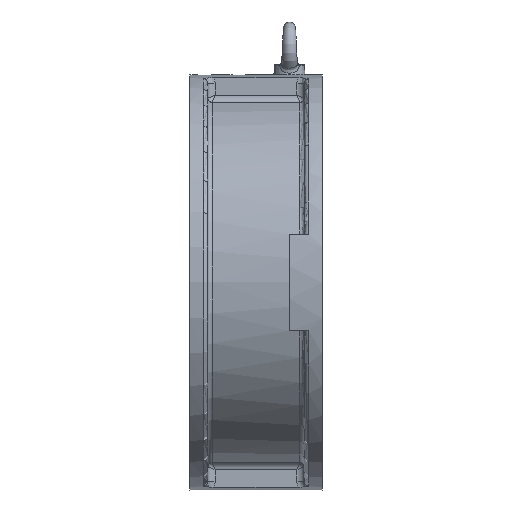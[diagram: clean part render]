
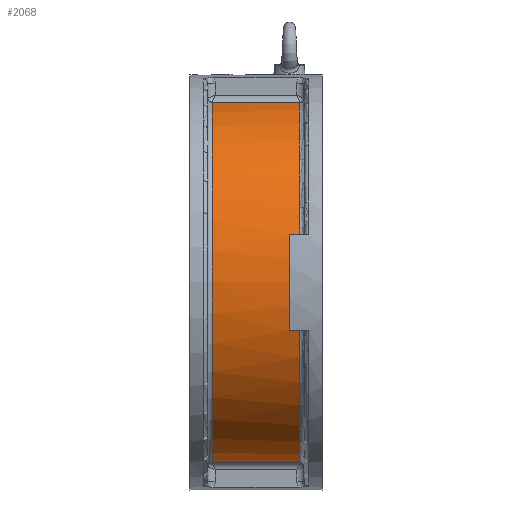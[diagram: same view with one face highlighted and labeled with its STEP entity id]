
A CAD part, left-side view. The second image highlights one B-rep face of the part: STEP entity #2068.
In plain terms, the highlighted cylindrical face has radius 124 mm (diameter 248 mm), a partial arc.
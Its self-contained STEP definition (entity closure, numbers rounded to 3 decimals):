
#37 = DIRECTION ( 'NONE',  ( 0., 1., 0. ) ) ;
#161 = VERTEX_POINT ( 'NONE', #3351 ) ;
#200 = EDGE_LOOP ( 'NONE', ( #1304, #4149, #7464, #7559, #4050, #4779, #2911, #5520, #1112, #2802, #6895, #2496 ) ) ;
#207 = CYLINDRICAL_SURFACE ( 'NONE', #3788, 124. ) ;
#381 = VERTEX_POINT ( 'NONE', #4665 ) ;
#425 = EDGE_CURVE ( 'NONE', #6214, #161, #3406, .T. ) ;
#570 = EDGE_CURVE ( 'NONE', #2524, #6217, #1846, .T. ) ;
#639 = DIRECTION ( 'NONE',  ( 0., 1., 0. ) ) ;
#666 = LINE ( 'NONE', #2483, #3071 ) ;
#726 = DIRECTION ( 'NONE',  ( 0., 1., 0. ) ) ;
#747 = CARTESIAN_POINT ( 'NONE',  ( 3366.696, 1399.385, 121.044 ) ) ;
#766 = CARTESIAN_POINT ( 'NONE',  ( 3366.272, 1399.337, -120.949 ) ) ;
#768 = CARTESIAN_POINT ( 'NONE',  ( 3366.557, 1399.353, 121.013 ) ) ;
#831 = EDGE_CURVE ( 'NONE', #6217, #2861, #2269, .T. ) ;
#1011 = CARTESIAN_POINT ( 'NONE',  ( 3366.696, 1399.385, 121.044 ) ) ;
#1059 = LINE ( 'NONE', #5655, #3370 ) ;
#1112 = ORIENTED_EDGE ( 'NONE', *, *, #7129, .T. ) ;
#1183 = DIRECTION ( 'NONE',  ( 0., 1., 0. ) ) ;
#1304 = ORIENTED_EDGE ( 'NONE', *, *, #2556, .F. ) ;
#1337 = CARTESIAN_POINT ( 'NONE',  ( 3366.415, 1458.337, -120.981 ) ) ;
#1407 = CARTESIAN_POINT ( 'NONE',  ( 3366.415, 1458.337, 120.981 ) ) ;
#1602 = DIRECTION ( 'NONE',  ( 0., 0., 1. ) ) ;
#1837 = DIRECTION ( 'NONE',  ( 0., 0., 1. ) ) ;
#1846 = CIRCLE ( 'NONE', #3744, 124. ) ;
#1980 = CARTESIAN_POINT ( 'NONE',  ( 3366.557, 1458.321, 121.013 ) ) ;
#1988 = AXIS2_PLACEMENT_3D ( 'NONE', #6568, #37, #2985 ) ;
#2019 = EDGE_CURVE ( 'NONE', #5788, #2962, #7371, .T. ) ;
#2068 = ADVANCED_FACE ( 'NONE', ( #2783 ), #207, .T. ) ;
#2113 = VERTEX_POINT ( 'NONE', #3755 ) ;
#2146 = B_SPLINE_CURVE_WITH_KNOTS ( 'NONE', 3,
 ( #3086, #1337, #4299, #4892 ),
 .UNSPECIFIED., .F., .F.,
 ( 4, 4 ),
 ( 0., 0. ),
 .UNSPECIFIED. ) ;
#2269 = B_SPLINE_CURVE_WITH_KNOTS ( 'NONE', 3,
 ( #6608, #4313, #768, #747 ),
 .UNSPECIFIED., .F., .F.,
 ( 4, 4 ),
 ( 0., 0. ),
 .UNSPECIFIED. ) ;
#2483 = CARTESIAN_POINT ( 'NONE',  ( 3273.946, 1391.337, 32.5 ) ) ;
#2496 = ORIENTED_EDGE ( 'NONE', *, *, #425, .T. ) ;
#2524 = VERTEX_POINT ( 'NONE', #5997 ) ;
#2556 = EDGE_CURVE ( 'NONE', #2524, #161, #666, .T. ) ;
#2726 = B_SPLINE_CURVE_WITH_KNOTS ( 'NONE', 3,
 ( #4942, #1980, #1407, #4897 ),
 .UNSPECIFIED., .F., .F.,
 ( 4, 4 ),
 ( 0., 0. ),
 .UNSPECIFIED. ) ;
#2783 = FACE_OUTER_BOUND ( 'NONE', #200, .T. ) ;
#2802 = ORIENTED_EDGE ( 'NONE', *, *, #7537, .T. ) ;
#2861 = VERTEX_POINT ( 'NONE', #1011 ) ;
#2911 = ORIENTED_EDGE ( 'NONE', *, *, #6586, .T. ) ;
#2962 = VERTEX_POINT ( 'NONE', #3978 ) ;
#2985 = DIRECTION ( 'NONE',  ( 0., 0., 1. ) ) ;
#3071 = VECTOR ( 'NONE', #726, 1000. ) ;
#3086 = CARTESIAN_POINT ( 'NONE',  ( 3366.272, 1458.337, -120.949 ) ) ;
#3266 = VERTEX_POINT ( 'NONE', #5392 ) ;
#3326 = DIRECTION ( 'NONE',  ( 0., 1., 0. ) ) ;
#3351 = CARTESIAN_POINT ( 'NONE',  ( 3273.946, 1406.337, 32.5 ) ) ;
#3370 = VECTOR ( 'NONE', #4551, 1000. ) ;
#3406 = CIRCLE ( 'NONE', #6190, 124. ) ;
#3444 = CARTESIAN_POINT ( 'NONE',  ( 3273.946, 1406.337, -32.5 ) ) ;
#3527 = CARTESIAN_POINT ( 'NONE',  ( 3393.611, 1458.337, 0. ) ) ;
#3556 = CARTESIAN_POINT ( 'NONE',  ( 3393.611, 1477.466, 0. ) ) ;
#3640 = EDGE_CURVE ( 'NONE', #4520, #2113, #5745, .T. ) ;
#3656 = LINE ( 'NONE', #5155, #5119 ) ;
#3744 = AXIS2_PLACEMENT_3D ( 'NONE', #5183, #5154, #1602 ) ;
#3755 = CARTESIAN_POINT ( 'NONE',  ( 3366.272, 1458.337, 120.949 ) ) ;
#3788 = AXIS2_PLACEMENT_3D ( 'NONE', #3556, #639, #5401 ) ;
#3978 = CARTESIAN_POINT ( 'NONE',  ( 3366.696, 1399.385, -121.044 ) ) ;
#4050 = ORIENTED_EDGE ( 'NONE', *, *, #4732, .T. ) ;
#4149 = ORIENTED_EDGE ( 'NONE', *, *, #570, .T. ) ;
#4231 = CARTESIAN_POINT ( 'NONE',  ( 3366.557, 1399.353, -121.013 ) ) ;
#4237 = CARTESIAN_POINT ( 'NONE',  ( 3393.611, 1406.337, 0. ) ) ;
#4299 = CARTESIAN_POINT ( 'NONE',  ( 3366.557, 1458.321, -121.013 ) ) ;
#4313 = CARTESIAN_POINT ( 'NONE',  ( 3366.415, 1399.337, 120.981 ) ) ;
#4330 = B_SPLINE_CURVE_WITH_KNOTS ( 'NONE', 3,
 ( #4881, #4231, #5458, #766 ),
 .UNSPECIFIED., .F., .F.,
 ( 4, 4 ),
 ( 0., 0. ),
 .UNSPECIFIED. ) ;
#4402 = VERTEX_POINT ( 'NONE', #5201 ) ;
#4520 = VERTEX_POINT ( 'NONE', #7066 ) ;
#4551 = DIRECTION ( 'NONE',  ( 0., 1., 0. ) ) ;
#4665 = CARTESIAN_POINT ( 'NONE',  ( 3366.272, 1399.337, -120.949 ) ) ;
#4673 = CARTESIAN_POINT ( 'NONE',  ( 3366.696, 1477.466, -121.044 ) ) ;
#4732 = EDGE_CURVE ( 'NONE', #3266, #2113, #2726, .T. ) ;
#4779 = ORIENTED_EDGE ( 'NONE', *, *, #3640, .F. ) ;
#4881 = CARTESIAN_POINT ( 'NONE',  ( 3366.696, 1399.385, -121.044 ) ) ;
#4892 = CARTESIAN_POINT ( 'NONE',  ( 3366.696, 1458.289, -121.044 ) ) ;
#4897 = CARTESIAN_POINT ( 'NONE',  ( 3366.272, 1458.337, 120.949 ) ) ;
#4942 = CARTESIAN_POINT ( 'NONE',  ( 3366.696, 1458.289, 121.044 ) ) ;
#5119 = VECTOR ( 'NONE', #3326, 1000. ) ;
#5139 = CIRCLE ( 'NONE', #1988, 124. ) ;
#5154 = DIRECTION ( 'NONE',  ( 0., 1., 0. ) ) ;
#5155 = CARTESIAN_POINT ( 'NONE',  ( 3366.696, 1477.466, 121.044 ) ) ;
#5183 = CARTESIAN_POINT ( 'NONE',  ( 3393.611, 1399.337, 0. ) ) ;
#5201 = CARTESIAN_POINT ( 'NONE',  ( 3273.946, 1399.337, -32.5 ) ) ;
#5275 = CARTESIAN_POINT ( 'NONE',  ( 3366.696, 1458.289, -121.044 ) ) ;
#5392 = CARTESIAN_POINT ( 'NONE',  ( 3366.696, 1458.289, 121.044 ) ) ;
#5401 = DIRECTION ( 'NONE',  ( 0., 0., 1. ) ) ;
#5458 = CARTESIAN_POINT ( 'NONE',  ( 3366.415, 1399.337, -120.981 ) ) ;
#5464 = DIRECTION ( 'NONE',  ( 0., 1., 0. ) ) ;
#5520 = ORIENTED_EDGE ( 'NONE', *, *, #2019, .T. ) ;
#5655 = CARTESIAN_POINT ( 'NONE',  ( 3273.946, 1391.337, -32.5 ) ) ;
#5745 = CIRCLE ( 'NONE', #6103, 124. ) ;
#5788 = VERTEX_POINT ( 'NONE', #5275 ) ;
#5882 = DIRECTION ( 'NONE',  ( 0., 0., 1. ) ) ;
#5972 = CARTESIAN_POINT ( 'NONE',  ( 3366.272, 1399.337, 120.949 ) ) ;
#5997 = CARTESIAN_POINT ( 'NONE',  ( 3273.946, 1399.337, 32.5 ) ) ;
#6103 = AXIS2_PLACEMENT_3D ( 'NONE', #3527, #1183, #5882 ) ;
#6190 = AXIS2_PLACEMENT_3D ( 'NONE', #4237, #5464, #1837 ) ;
#6214 = VERTEX_POINT ( 'NONE', #3444 ) ;
#6217 = VERTEX_POINT ( 'NONE', #5972 ) ;
#6420 = DIRECTION ( 'NONE',  ( 0., -1., 0. ) ) ;
#6568 = CARTESIAN_POINT ( 'NONE',  ( 3393.611, 1399.337, 0. ) ) ;
#6586 = EDGE_CURVE ( 'NONE', #4520, #5788, #2146, .T. ) ;
#6608 = CARTESIAN_POINT ( 'NONE',  ( 3366.272, 1399.337, 120.949 ) ) ;
#6645 = VECTOR ( 'NONE', #6420, 1000. ) ;
#6736 = EDGE_CURVE ( 'NONE', #4402, #6214, #1059, .T. ) ;
#6766 = EDGE_CURVE ( 'NONE', #2861, #3266, #3656, .T. ) ;
#6895 = ORIENTED_EDGE ( 'NONE', *, *, #6736, .T. ) ;
#7066 = CARTESIAN_POINT ( 'NONE',  ( 3366.272, 1458.337, -120.949 ) ) ;
#7129 = EDGE_CURVE ( 'NONE', #2962, #381, #4330, .T. ) ;
#7371 = LINE ( 'NONE', #4673, #6645 ) ;
#7464 = ORIENTED_EDGE ( 'NONE', *, *, #831, .T. ) ;
#7537 = EDGE_CURVE ( 'NONE', #381, #4402, #5139, .T. ) ;
#7559 = ORIENTED_EDGE ( 'NONE', *, *, #6766, .T. ) ;
